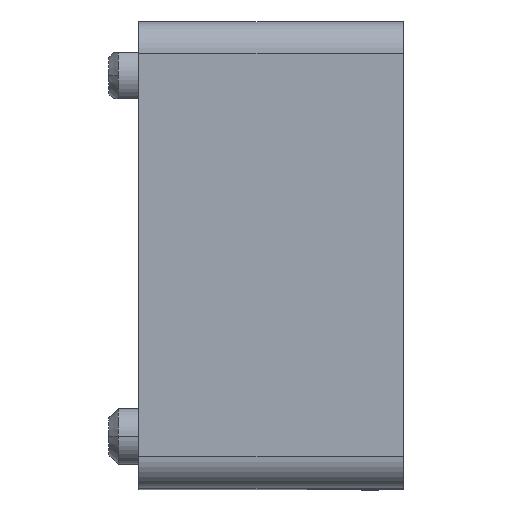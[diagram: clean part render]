
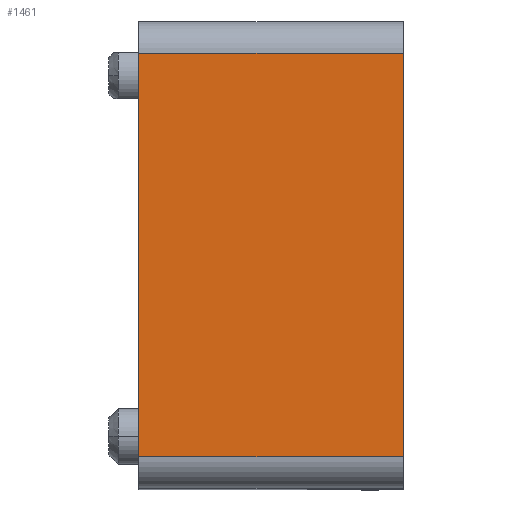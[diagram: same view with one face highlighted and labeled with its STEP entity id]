
A CAD part, top view. The second image highlights one B-rep face of the part: STEP entity #1461.
In plain terms, the highlighted planar face has unit normal (0, 0, 1).
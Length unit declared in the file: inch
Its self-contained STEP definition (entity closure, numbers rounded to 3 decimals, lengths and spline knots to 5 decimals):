
#335 = EDGE_CURVE ( 'NONE', #20018, #12668, #19294, .T. ) ;
#1002 = DIRECTION ( 'NONE',  ( 0., -1., 0. ) ) ;
#1461 = ADVANCED_FACE ( 'NONE', ( #9956 ), #14100, .F. ) ;
#1488 = CARTESIAN_POINT ( 'NONE',  ( 0.275, -0.41937, 1.25 ) ) ;
#1506 = CARTESIAN_POINT ( 'NONE',  ( -0.275, 0.5, 1.25 ) ) ;
#1780 = DIRECTION ( 'NONE',  ( 0., 0., -1. ) ) ;
#2930 = DIRECTION ( 'NONE',  ( 0., -1., 0. ) ) ;
#3389 = EDGE_CURVE ( 'NONE', #4372, #12668, #18793, .T. ) ;
#3685 = DIRECTION ( 'NONE',  ( -1., 0., 0. ) ) ;
#3769 = VERTEX_POINT ( 'NONE', #8251 ) ;
#4372 = VERTEX_POINT ( 'NONE', #8169 ) ;
#6812 = ORIENTED_EDGE ( 'NONE', *, *, #8801, .F. ) ;
#8169 = CARTESIAN_POINT ( 'NONE',  ( -0.275, 0.41937, 1.25 ) ) ;
#8251 = CARTESIAN_POINT ( 'NONE',  ( 0.275, 0.41937, 1.25 ) ) ;
#8801 = EDGE_CURVE ( 'NONE', #3769, #20018, #16851, .T. ) ;
#9185 = CARTESIAN_POINT ( 'NONE',  ( -0.275, -0.41937, 1.25 ) ) ;
#9400 = DIRECTION ( 'NONE',  ( -1., 0., 0. ) ) ;
#9728 = ORIENTED_EDGE ( 'NONE', *, *, #20542, .T. ) ;
#9956 = FACE_OUTER_BOUND ( 'NONE', #11318, .T. ) ;
#11318 = EDGE_LOOP ( 'NONE', ( #9728, #13933, #22588, #6812 ) ) ;
#12151 = DIRECTION ( 'NONE',  ( -1., 0., 0. ) ) ;
#12668 = VERTEX_POINT ( 'NONE', #9185 ) ;
#12949 = CARTESIAN_POINT ( 'NONE',  ( 0.275, 0.5, 1.25 ) ) ;
#13162 = CARTESIAN_POINT ( 'NONE',  ( 0.275, 0.41937, 1.25 ) ) ;
#13908 = AXIS2_PLACEMENT_3D ( 'NONE', #17875, #1780, #12151 ) ;
#13933 = ORIENTED_EDGE ( 'NONE', *, *, #3389, .T. ) ;
#14100 = PLANE ( 'NONE',  #13908 ) ;
#15350 = VECTOR ( 'NONE', #3685, 39.37008 ) ;
#16389 = VECTOR ( 'NONE', #9400, 39.37008 ) ;
#16851 = LINE ( 'NONE', #12949, #17720 ) ;
#17683 = VECTOR ( 'NONE', #2930, 39.37008 ) ;
#17720 = VECTOR ( 'NONE', #1002, 39.37008 ) ;
#17875 = CARTESIAN_POINT ( 'NONE',  ( 0.275, 0.5, 1.25 ) ) ;
#18793 = LINE ( 'NONE', #1506, #17683 ) ;
#19294 = LINE ( 'NONE', #1488, #16389 ) ;
#20018 = VERTEX_POINT ( 'NONE', #21932 ) ;
#20542 = EDGE_CURVE ( 'NONE', #3769, #4372, #21496, .T. ) ;
#21496 = LINE ( 'NONE', #13162, #15350 ) ;
#21932 = CARTESIAN_POINT ( 'NONE',  ( 0.275, -0.41937, 1.25 ) ) ;
#22588 = ORIENTED_EDGE ( 'NONE', *, *, #335, .F. ) ;
